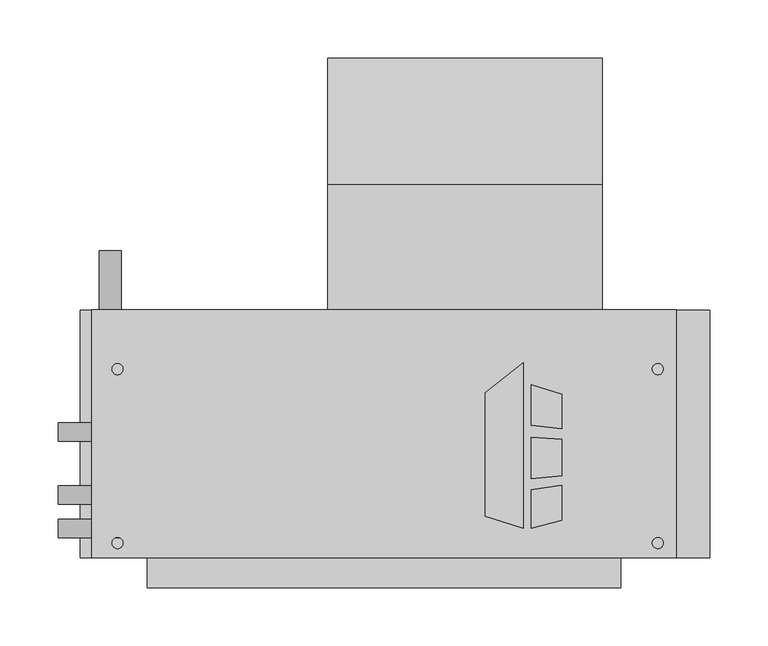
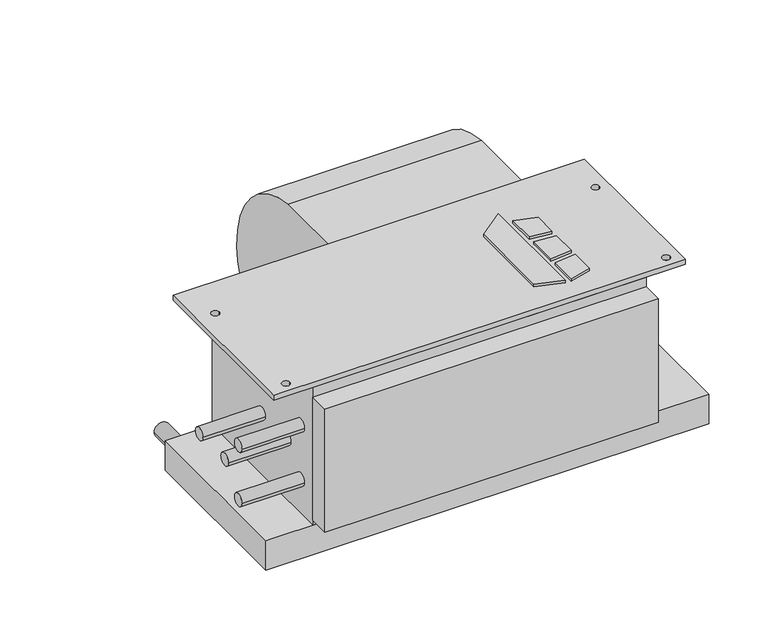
"""IFC4 building model written with IfcOpenShell, lengths in millimetres: proxy geometry, Concealed_Horizontal_Fan_Coil_Unit_-_CHY_-_IEC_-_4-Pipe_LH_2022 : Size 02 - 277v/60Hz/1Ph - 4/1 Coil."""

from ifc_helpers import new_model, si_unit, point, frame, frame_2d, origin, origin_with_axes, place, context, project, spatial, polyline, circle_curve, trimmed, segment, composite_curve, outline, extrude, source, transform, mapped, element, save


def mechanical_equipment_bdde37b6(model_context):
    return source(origin(), model_context, "Body", "SweptSolid", [
        extrude(outline(polyline([(239.4019761, -202.5703476), (271.9602728, -177.1330184), (271.9602728, -319.0875), (239.4019761, -308.8679201), (239.4019761, -202.5703476)])), origin_with_axes(), (0.0, 0.0, 1.0), 3.175),
        extrude(outline(polyline([(278.7186058, -230.442352), (278.7186058, -195.9624379), (304.8, -204.1490115), (304.8, -233.6447446), (278.7186058, -230.442352)])), origin_with_axes(), (0.0, 0.0, 1.0), 3.175),
        extrude(outline(polyline([(304.8, -312.0990115), (278.7186058, -319.0875), (278.7186058, -285.8661996), (304.8, -282.3243564), (304.8, -312.0990115)])), origin_with_axes(), (0.0, 0.0, 1.0), 3.175),
        extrude(outline(polyline([(304.8, -242.7263277), (304.8, -273.976483), (278.7186058, -276.717748), (278.7186058, -240.8600378), (304.8, -242.7263277)])), origin_with_axes(), (0.0, 0.0, 1.0), 3.175),
        extrude(outline(composite_curve([segment(trimmed(circle_curve(frame_2d((-33.198831, -136.0299844)), 117.3559541), [point((-23.8125, -19.05))], [point((84.1375, -138.176))], False, "CARTESIAN"), True, "CONTINUOUS"), segment(trimmed(circle_curve(frame_2d((-11.5977337, -136.4250563)), 95.7512443), [point((84.1375, -138.176))], [point((-23.8125, -231.394))], False, "CARTESIAN"), True, "CONTINUOUS"), segment(trimmed(circle_curve(frame_2d((-11.6288131, -136.6666968)), 95.5076133), [point((-23.8125, -231.394))], [point((-107.1245, -138.176))], False, "CARTESIAN"), True, "CONTINUOUS"), segment(trimmed(circle_curve(frame_2d((-126.2059828, -138.4775816)), 19.0838659), [point((-107.1245, -138.176))], [point((-119.3963373, -120.65))], True, "CARTESIAN"), True, "CONTINUOUS"), segment(polyline([(-119.3963373, -120.65), (-131.7625, -120.65), (-131.7625, -19.05), (-23.8125, -19.05)]), True, "CONTINUOUS")], self_intersect=False)), frame((104.013, 0.0, 0.0), z_axis=(1.0, 0.0, 0.0), x_axis=(0.0, 1.0, 0.0)), (0.0, 0.0, 1.0), 235.712),
        extrude(outline(polyline([(403.225, -131.7625), (403.225, -344.4875), (-98.425, -344.4875), (-98.425, -131.7625), (403.225, -131.7625)]), holes=[composite_curve([segment(trimmed(circle_curve(frame_2d((-76.2, -182.5625)), 4.7625), [point((-80.9625, -182.5625))], [point((-71.4375, -182.5625))], True, "CARTESIAN"), True, "CONTINUOUS"), segment(trimmed(circle_curve(frame_2d((-76.2, -182.5625)), 4.7625), [point((-71.4375, -182.5625))], [point((-80.9625, -182.5625))], True, "CARTESIAN"), True, "CONTINUOUS")], self_intersect=False), composite_curve([segment(trimmed(circle_curve(frame_2d((-76.2, -331.7875)), 4.7625), [point((-80.9625, -331.7875))], [point((-71.4375, -331.7875))], True, "CARTESIAN"), True, "CONTINUOUS"), segment(trimmed(circle_curve(frame_2d((-76.2, -331.7875)), 4.7625), [point((-71.4375, -331.7875))], [point((-80.9625, -331.7875))], True, "CARTESIAN"), True, "CONTINUOUS")], self_intersect=False), composite_curve([segment(trimmed(circle_curve(frame_2d((387.35, -182.5625)), 4.7625), [point((382.5875, -182.5625))], [point((392.1125, -182.5625))], True, "CARTESIAN"), True, "CONTINUOUS"), segment(trimmed(circle_curve(frame_2d((387.35, -182.5625)), 4.7625), [point((392.1125, -182.5625))], [point((382.5875, -182.5625))], True, "CARTESIAN"), True, "CONTINUOUS")], self_intersect=False), composite_curve([segment(trimmed(circle_curve(frame_2d((387.35, -331.7875)), 4.7625), [point((382.5875, -331.7875))], [point((392.1125, -331.7875))], True, "CARTESIAN"), True, "CONTINUOUS"), segment(trimmed(circle_curve(frame_2d((387.35, -331.7875)), 4.7625), [point((392.1125, -331.7875))], [point((382.5875, -331.7875))], True, "CARTESIAN"), True, "CONTINUOUS")], self_intersect=False)]), frame((0.0, 0.0, -6.35), z_axis=(0.0, 0.0, 1.0), x_axis=(1.0, 0.0, 0.0)), (0.0, 0.0, 1.0), 6.35),
        extrude(outline(composite_curve([segment(trimmed(circle_curve(frame_2d((-209.55, -82.55)), 9.525), [point((-209.55, -92.075))], [point((-209.55, -73.025))], False, "CARTESIAN"), True, "CONTINUOUS"), segment(trimmed(circle_curve(frame_2d((-209.55, -82.55)), 9.525), [point((-209.55, -73.025))], [point((-209.55, -92.075))], False, "CARTESIAN"), True, "CONTINUOUS")], self_intersect=False)), frame((0.0, -131.7625, 0.0), z_axis=(0.0, 1.0, 0.0), x_axis=(0.0, 0.0, 1.0)), (0.0, 0.0, 1.0), 50.8),
        extrude(outline(polyline([(355.6, -369.8875), (-50.8, -369.8875), (-50.8, -344.4875), (355.6, -344.4875), (355.6, -369.8875)])), frame((0.0, 0.0, -177.8), z_axis=(0.0, 0.0, 1.0), x_axis=(1.0, 0.0, 0.0)), (0.0, 0.0, 1.0), 158.75),
        extrude(outline(polyline([(431.8, -131.7625), (431.8, -344.4875), (-107.95, -344.4875), (-107.95, -131.7625), (431.8, -131.7625)])), frame((0.0, 0.0, -222.25), z_axis=(0.0, 0.0, 1.0), x_axis=(1.0, 0.0, 0.0)), (0.0, 0.0, 1.0), 38.1),
        extrude(outline(composite_curve([segment(trimmed(circle_curve(frame_2d((-236.5375, -104.775)), 7.9375), [point((-228.6, -104.775))], [point((-244.475, -104.775))], False, "CARTESIAN"), True, "CONTINUOUS"), segment(trimmed(circle_curve(frame_2d((-236.5375, -104.775)), 7.9375), [point((-244.475, -104.775))], [point((-228.6, -104.775))], False, "CARTESIAN"), True, "CONTINUOUS")], self_intersect=False)), frame((-127.0, 0.0, 0.0), z_axis=(1.0, 0.0, 0.0), x_axis=(0.0, 1.0, 0.0)), (0.0, 0.0, 1.0), 76.2),
        extrude(outline(composite_curve([segment(trimmed(circle_curve(frame_2d((-290.5125, -104.775)), 7.9375), [point((-282.575, -104.775))], [point((-298.45, -104.775))], False, "CARTESIAN"), True, "CONTINUOUS"), segment(trimmed(circle_curve(frame_2d((-290.5125, -104.775)), 7.9375), [point((-298.45, -104.775))], [point((-282.575, -104.775))], False, "CARTESIAN"), True, "CONTINUOUS")], self_intersect=False)), frame((-127.0, 0.0, 0.0), z_axis=(1.0, 0.0, 0.0), x_axis=(0.0, 1.0, 0.0)), (0.0, 0.0, 1.0), 76.2),
        extrude(outline(composite_curve([segment(trimmed(circle_curve(frame_2d((-319.0875, -69.85)), 7.9375), [point((-311.15, -69.85))], [point((-327.025, -69.85))], False, "CARTESIAN"), True, "CONTINUOUS"), segment(trimmed(circle_curve(frame_2d((-319.0875, -69.85)), 7.9375), [point((-327.025, -69.85))], [point((-311.15, -69.85))], False, "CARTESIAN"), True, "CONTINUOUS")], self_intersect=False)), frame((-127.0, 0.0, 0.0), z_axis=(1.0, 0.0, 0.0), x_axis=(0.0, 1.0, 0.0)), (0.0, 0.0, 1.0), 76.2),
        extrude(outline(composite_curve([segment(trimmed(circle_curve(frame_2d((-319.0875, -139.7)), 7.9375), [point((-311.15, -139.7))], [point((-327.025, -139.7))], False, "CARTESIAN"), True, "CONTINUOUS"), segment(trimmed(circle_curve(frame_2d((-319.0875, -139.7)), 7.9375), [point((-327.025, -139.7))], [point((-311.15, -139.7))], False, "CARTESIAN"), True, "CONTINUOUS")], self_intersect=False)), frame((-127.0, 0.0, 0.0), z_axis=(1.0, 0.0, 0.0), x_axis=(0.0, 1.0, 0.0)), (0.0, 0.0, 1.0), 76.2),
        extrude(outline(polyline([(355.6, -344.4875), (-50.8, -344.4875), (-50.8, -131.7625), (355.6, -131.7625), (355.6, -344.4875)])), frame((0.0, 0.0, -184.15), z_axis=(0.0, 0.0, 1.0), x_axis=(1.0, 0.0, 0.0)), (0.0, 0.0, 1.0), 177.8),
    ])


if __name__ == "__main__":
    model = new_model("IFC4")
    model_context = context("Model", 3, world=origin())
    ifc_project = project(units=[si_unit("LENGTHUNIT", "METRE", prefix="MILLI")], contexts=[model_context])
    site = spatial("IfcSite", under=ifc_project)
    building = spatial("IfcBuilding", under=site)
    placement = place(None, origin())
    mechanical_equipment_shape = mechanical_equipment_bdde37b6(model_context)
    element("IfcBuildingElementProxy", 1, Name="Concealed_Horizontal_Fan_Coil_Unit_-_CHY_-_IEC_-_4-Pipe_LH_2022 : Size 02 - 277v/60Hz/1Ph - 4/1 Coil", ObjectType="Concealed_Horizontal_Fan_Coil_Unit_-_CHY_-_IEC_-_4-Pipe_LH_2022 : Size 02 - 277v/60Hz/1Ph - 4/1 Coil", at=placement, inside=building, context=model_context, shape_type="MappedRepresentation", body=[
        mapped(mechanical_equipment_shape, transform((0.0, 0.0, 0.0), x_axis=(1.0, 0.0, 0.0), y_axis=(0.0, 1.0, 0.0), z_axis=(0.0, 0.0, 1.0))),
    ])
    save(model, "model.ifc")
